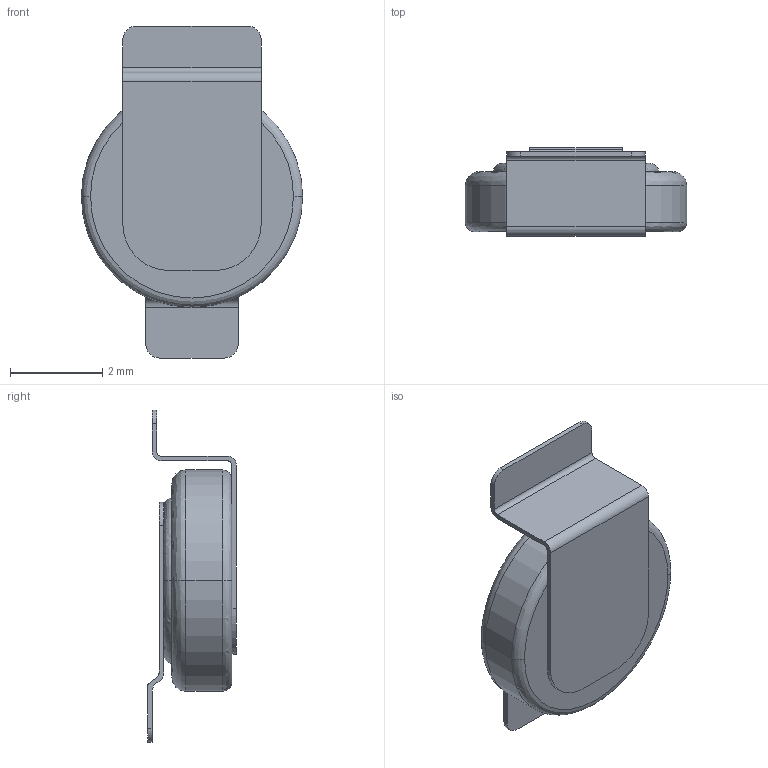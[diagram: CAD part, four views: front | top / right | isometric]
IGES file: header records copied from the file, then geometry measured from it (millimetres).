
Start section:  PTC IGES file: rtc-ml414r-f9a_prt.igs
Global section: file name: rtc-ml414r-f9a_prt.igs; native system: Pro/ENGINEER by Parametric Technology Corporation; preprocessor: 2006170; author: GRA; organization: Unknown; date: 20080630.105208; units: millimetre
Bounding box: 4.8 x 1.93 x 7.2 mm (x, y, z)
Surface area: 85.5 mm2 (no closed solid volume)
Topology: 0 solids, 0 shells, 49 faces, 256 edges, 256 vertices
Faces by surface type: bspline 25, revolution 24
